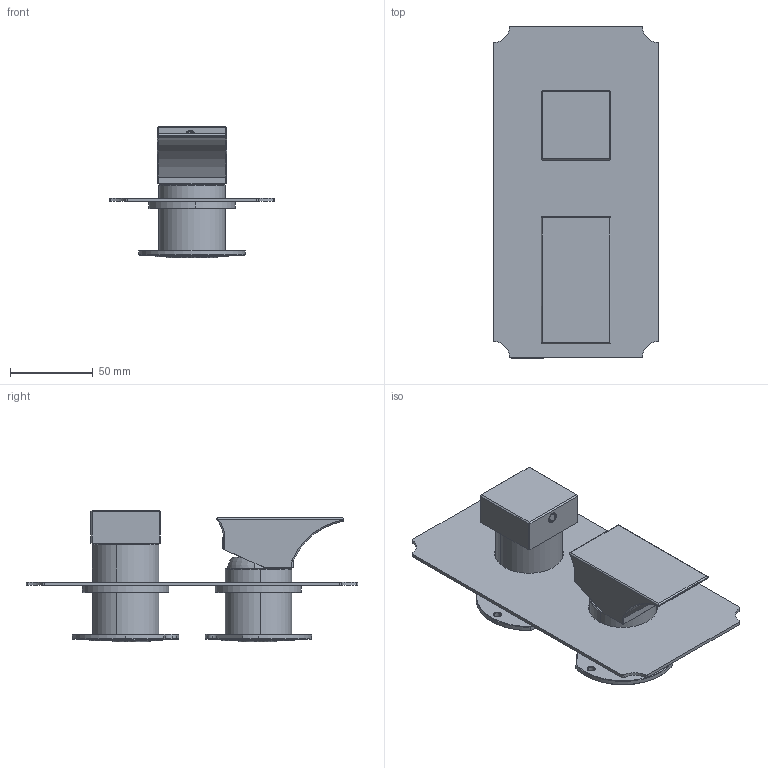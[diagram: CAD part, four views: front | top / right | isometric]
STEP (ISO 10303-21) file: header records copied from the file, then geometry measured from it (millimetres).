
FILE_DESCRIPTION (( 'STEP AP203' ), '1' );
FILE_NAME ('EMR2.STEP', '2019-05-28T10:00:26', ( '' ), ( '' ), 'SwSTEP 2.0', 'SolidWorks 2014', '' );
FILE_SCHEMA (( 'CONFIG_CONTROL_DESIGN' ));
Length unit declared in the file: millimetre
Products named in the file (26): CARTBAG014; EMR2; EU1811_0; EU1833_0; GKEROX35_0; EU1830_0; EU1968_0; AS747_00; EU1879_0; EU1829_0; AS841_00; GRANCO M5x6 ACCIAIO; GRANCO M5x4 ACCIAIO; CARTCUC002; EU1839_0; form_sealing_K-35A; CAPP_0; EU2016_0; AS758_00; EU1828_0; EU1837_0; AS759_00; EU0075_0; CARTK_35; TAPPHITO01; GHISERR3719
Assembly tree (27 placements, depth 4):
  EMR2
    AS841_00
      EU1811_0
      EU1839_0  x2
    AS759_00
      EU0075_0
      CARTBAG014
      EU1833_0
      EU1828_0
      EU1829_0
      AS758_00
        EU1879_0
        EU2016_0
        TAPPHITO01
        GRANCO M5x6 ACCIAIO
        GRANCO M5x4 ACCIAIO
    AS747_00
      GHISERR3719
      CARTCUC002
        CARTK_35
        GKEROX35_0
      EU1830_0
      form_sealing_K-35A
      EU1837_0
      CAPP_0
    EU1968_0
    TAPPHITO01
Bounding box: 100 x 200 x 79.5 mm (x, y, z)
Volume: 209873.6 mm3; surface area: 135643.6 mm2
Topology: 22 solids, 22 shells, 840 faces, 1964 edges, 1212 vertices
Faces by surface type: cylinder 318, plane 255, cone 166, torus 58, bspline 43
Entity records: 28157 total; most frequent: CARTESIAN_POINT 6602, DIRECTION 4216, ORIENTED_EDGE 3732, EDGE_CURVE 1866, AXIS2_PLACEMENT_3D 1709, VERTEX_POINT 1156, EDGE_LOOP 926, CIRCLE 908
